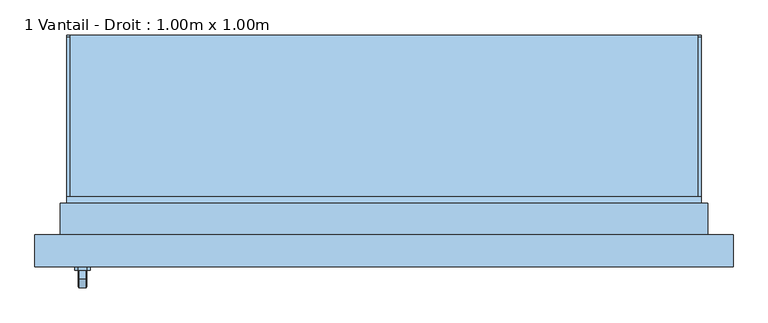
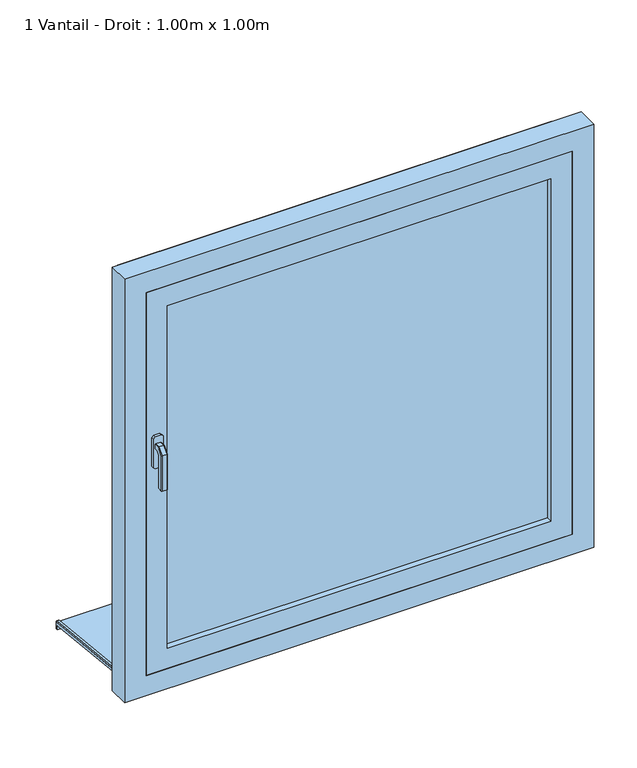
"""IFC4 building model written with IfcOpenShell, lengths in millimetres: window geometry, 1 Vantail - Droit : 1.00m x 1.00m."""

from ifc_helpers import new_model, si_unit, point, frame, frame_2d, origin, place, context, project, spatial, polyline, circle_curve, trimmed, segment, composite_curve, outline, extrude, faceted_brep, source, transform, mapped, element, save


def window_1_vantail_droit_1_00m_x_1_00m_58547b41(model_context):
    return source(origin(), model_context, "Body", "SolidModel", [
        faceted_brep([(-469.3539903, -181.0, 1422.0339292), (-467.9660708, -181.0, 1420.6460097), (-467.9660708, -181.0, 1409.3323012), (-469.3323012, -181.0, 1407.9660708), (-480.6676988, -181.0, 1407.9660708), (-482.0339292, -181.0, 1409.3323012), (-482.0339292, -181.0, 1420.6460097), (-480.6460097, -181.0, 1422.0339292), (-469.3539903, -193.9135489, 1422.0339292), (-467.9660708, -193.3386538, 1420.6460097), (-467.9660708, -206.6460097, 1407.3386538), (-467.9660708, -206.6460097, 1320.0), (-467.9660708, -195.3323012, 1320.0), (-467.9660708, -195.3323012, 1402.6523623), (-467.9660708, -188.6523623, 1409.3323012), (-469.3323012, -188.0864511, 1407.9660708), (-480.6676988, -188.0864511, 1407.9660708), (-482.0339292, -188.6523623, 1409.3323012), (-482.0339292, -195.3323012, 1402.6523623), (-482.0339292, -195.3323012, 1320.0), (-482.0339292, -206.6460097, 1320.0), (-482.0339292, -206.6460097, 1407.3386538), (-482.0339292, -193.3386538, 1420.6460097), (-480.6460097, -193.9135489, 1422.0339292), (-469.3539903, -208.0339292, 1407.9135489), (-469.3323012, -193.9660708, 1402.0864511), (-480.6676988, -193.9660708, 1402.0864511), (-480.6460097, -208.0339292, 1407.9135489), (-469.3539903, -208.0339292, 1320.0), (-480.6460097, -208.0339292, 1320.0), (-480.6676988, -193.9660708, 1320.0), (-469.3323012, -193.9660708, 1320.0)], [[[0, 1, 2, 3, 4, 5, 6, 7]], [[1, 0, 8, 9]], [[2, 1, 9, 10, 11, 12, 13, 14]], [[3, 2, 14, 15]], [[4, 3, 15, 16]], [[5, 4, 16, 17]], [[6, 5, 17, 18, 19, 20, 21, 22]], [[7, 6, 22, 23]], [[0, 7, 23, 8]], [[9, 8, 24, 10]], [[15, 14, 13, 25]], [[16, 15, 25, 26]], [[17, 16, 26, 18]], [[23, 22, 21, 27]], [[8, 23, 27, 24]], [[28, 29, 20, 19, 30, 31, 12, 11]], [[10, 24, 28, 11]], [[25, 13, 12, 31]], [[26, 25, 31, 30]], [[18, 26, 30, 19]], [[27, 21, 20, 29]], [[24, 27, 29, 28]]]),
        extrude(outline(polyline([(1440.0, -468.0), (1440.0, -482.0), (1435.0, -487.0), (1365.0, -487.0), (1360.0, -482.0), (1360.0, -468.0), (1365.0, -463.0), (1435.0, -463.0), (1440.0, -468.0)])), frame((0.0, -181.0, 0.0), z_axis=(0.0, 1.0, 0.0), x_axis=(0.0, 0.0, 1.0)), (0.0, 0.0, 1.0), 6.0),
        extrude(outline(polyline([(190.0, 760.3005047), (190.0, 744.7447882), (185.0, 745.2703094), (185.0, 755.5708141), (-95.0, 785.0), (-95.0, 800.0), (-90.0, 800.0), (-90.0, 789.7296906), (190.0, 760.3005047)])), frame((-500.0, 0.0, 0.0), z_axis=(1.0, 0.0, 0.0), x_axis=(0.0, 1.0, 0.0)), (0.0, 0.0, 1.0), 1000.0),
        extrude(outline(composite_curve([segment(polyline([(190.0, 760.3005047), (-90.0, 789.7296906), (-90.0, 794.757232), (186.4181139, 765.7045175)]), True, "CONTINUOUS"), segment(trimmed(circle_curve(frame_2d((186.0, 761.7264299)), 4.0), [point((186.4181139, 765.7045175))], [point((190.0, 761.7264299))], False, "CARTESIAN"), True, "CONTINUOUS"), segment(polyline([(190.0, 761.7264299), (190.0, 760.3005047)]), True, "CONTINUOUS")], self_intersect=False)), frame((-500.0, 0.0, 0.0), z_axis=(1.0, 0.0, 0.0), x_axis=(0.0, 1.0, 0.0)), (0.0, 0.0, 1.0), 5.0),
        extrude(outline(composite_curve([segment(polyline([(190.0, 760.3005047), (-90.0, 789.7296906), (-90.0, 794.757232), (186.4181139, 765.7045175)]), True, "CONTINUOUS"), segment(trimmed(circle_curve(frame_2d((186.0, 761.7264299)), 4.0), [point((186.4181139, 765.7045175))], [point((190.0, 761.7264299))], False, "CARTESIAN"), True, "CONTINUOUS"), segment(polyline([(190.0, 761.7264299), (190.0, 760.3005047)]), True, "CONTINUOUS")], self_intersect=False)), frame((495.0, 0.0, 0.0), z_axis=(1.0, 0.0, 0.0), x_axis=(0.0, 1.0, 0.0)), (0.0, 0.0, 1.0), 5.0),
        extrude(outline(polyline([(800.0, -510.0), (800.0, -500.0), (1800.0, -500.0), (1800.0, 500.0), (800.0, 500.0), (800.0, 510.0), (1810.0, 510.0), (1810.0, -510.0), (800.0, -510.0)])), frame((0.0, -125.0, 0.0), z_axis=(0.0, 1.0, 0.0), x_axis=(0.0, 0.0, 1.0)), (0.0, 0.0, 1.0), 50.0),
        faceted_brep([(-550.0, -175.0, 800.0), (-550.0, -125.0, 800.0), (-500.0, -125.0, 800.0), (-500.0, -75.0, 800.0), (500.0, -75.0, 800.0), (500.0, -125.0, 800.0), (550.0, -125.0, 800.0), (550.0, -175.0, 800.0), (-550.0, -175.0, 1850.0), (-550.0, -125.0, 1850.0), (550.0, -125.0, 1850.0), (500.0, -125.0, 839.3761425), (-500.0, -125.0, 839.3761425), (-485.0, -125.0, 1785.0), (-485.0, -125.0, 865.0), (485.0, -125.0, 865.0), (485.0, -125.0, 1785.0), (-500.0, -65.0, 823.2991909), (-500.0, -65.0, 795.0), (-500.0, -75.0, 795.0), (500.0, -75.0, 795.0), (500.0, -65.0, 795.0), (500.0, -65.0, 823.2991909), (550.0, -175.0, 1850.0), (500.0, -175.0, 1800.0), (500.0, -175.0, 850.0), (-500.0, -175.0, 850.0), (-500.0, -175.0, 1800.0), (-485.0, -135.0, 1785.0), (-485.0, -135.0, 865.0), (485.0, -135.0, 865.0), (485.0, -135.0, 1785.0), (500.0, -135.0, 1800.0), (-500.0, -135.0, 1800.0), (-500.0, -135.0, 850.0), (500.0, -135.0, 850.0)], [[[0, 1, 2, 3, 4, 5, 6, 7]], [[1, 0, 8, 9]], [[1, 9, 10, 6, 5, 11, 12, 2], [13, 14, 15, 16]], [[12, 17, 18, 19, 3, 2]], [[3, 19, 20, 4]], [[4, 20, 21, 22, 11, 5]], [[6, 10, 23, 7]], [[0, 7, 23, 8], [24, 25, 26, 27]], [[13, 28, 29, 14]], [[29, 30, 15, 14]], [[31, 16, 15, 30]], [[17, 12, 11, 22]], [[32, 33, 34, 35], [28, 31, 30, 29]], [[34, 33, 27, 26]], [[26, 25, 35, 34]], [[24, 32, 35, 25]], [[18, 17, 22, 21]], [[19, 18, 21, 20]], [[13, 16, 31, 28]], [[33, 32, 24, 27]], [[10, 9, 8, 23]]]),
        extrude(outline(polyline([(850.0, 500.0), (1800.0, 500.0), (1800.0, -500.0), (850.0, -500.0), (850.0, 500.0)]), holes=[polyline([(900.0, -450.0), (1750.0, -450.0), (1750.0, 450.0), (900.0, 450.0), (900.0, -450.0)])]), frame((0.0, -175.0, 0.0), z_axis=(0.0, 1.0, 0.0), x_axis=(0.0, 0.0, 1.0)), (0.0, 0.0, 1.0), 40.0),
        extrude(outline(polyline([(-450.0, -149.0), (450.0, -149.0), (450.0, -161.0), (-450.0, -161.0), (-450.0, -149.0)])), frame((0.0, 0.0, 900.0), z_axis=(0.0, 0.0, 1.0), x_axis=(1.0, 0.0, 0.0)), (0.0, 0.0, 1.0), 850.0),
    ])


if __name__ == "__main__":
    model = new_model("IFC4")
    model_context = context("Model", 3, world=origin())
    ifc_project = project(units=[si_unit("LENGTHUNIT", "METRE", prefix="MILLI")], contexts=[model_context])
    site = spatial("IfcSite", under=ifc_project)
    building = spatial("IfcBuilding", under=site)
    placement = place(None, origin())
    window_1_vantail_droit_1_00m_x_1_00m_shape = window_1_vantail_droit_1_00m_x_1_00m_58547b41(model_context)
    element("IfcWindow", 1, ObjectType="1 Vantail - Droit : 1.00m x 1.00m", at=placement, inside=building, context=model_context, shape_type="MappedRepresentation", body=[
        mapped(window_1_vantail_droit_1_00m_x_1_00m_shape, transform((0.0, 0.0, 0.0), x_axis=(1.0, 0.0, 0.0), y_axis=(0.0, 1.0, 0.0), z_axis=(0.0, 0.0, 1.0))),
    ])
    save(model, "model.ifc")
